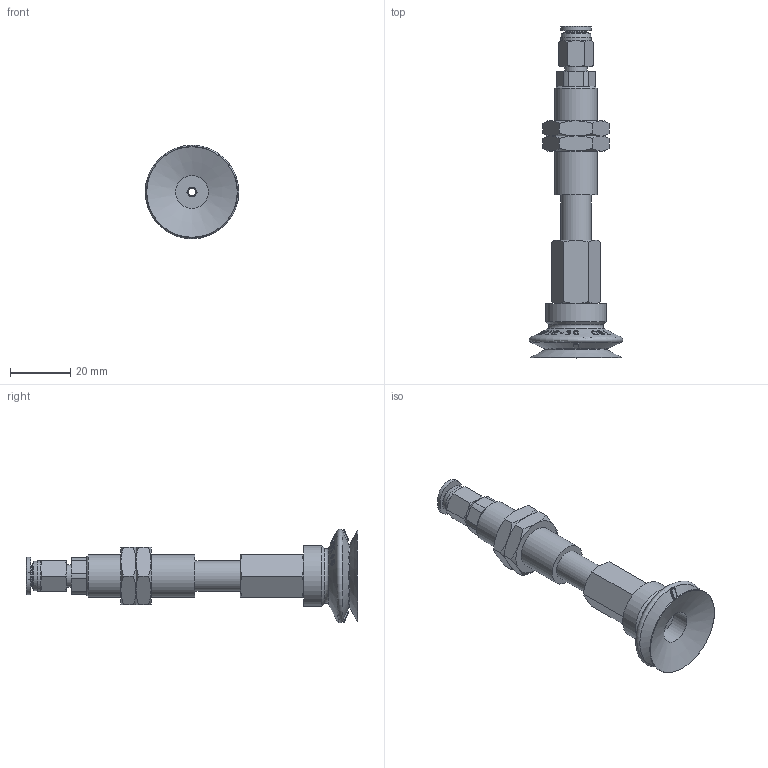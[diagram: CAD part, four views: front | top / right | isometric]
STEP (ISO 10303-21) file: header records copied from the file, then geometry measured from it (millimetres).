
FILE_DESCRIPTION(('STEP AP214'),'1');
FILE_NAME('-O.stp','2026-01-21T05:16:54',(' '),(' '),'Spatial InterOp 3D',' ',' ');
FILE_SCHEMA(('AUTOMOTIVE_DESIGN { 1 0 10303 214 1 1 1 1 }'));
Length unit declared in the file: millimetre
Products named in the file (8): BNABPJTS-30-15-※-O; PC-C_06-M5; ADAPTER; BPJG-30-※; Adapter-30-NAPJ; NUT-NAPJ-30-15-s; NAPJTS-30-15-FBODY; NAPJTS-30-15-MBODY
Assembly tree (8 placements, depth 2):
  BNABPJTS-30-15-※-O
    PC-C_06-M5
    ADAPTER
    BPJG-30-※
    Adapter-30-NAPJ
    NUT-NAPJ-30-15-s  x2
    NAPJTS-30-15-FBODY
    NAPJTS-30-15-MBODY
Bounding box: 30.99 x 109.98 x 30.99 mm (x, y, z)
Volume: 17993.5 mm3; surface area: 14005.2 mm2
Topology: 7 solids, 10 shells, 821 faces, 2244 edges, 1469 vertices
Faces by surface type: plane 684, cone 83, cylinder 38, torus 9, bspline 4, revolution 3
Full cylindrical faces by diameter (mm): 3 x3, 4 x2, 4.134 x1, 4.917 x1, 5 x1, 5.8 x1, 6 x1, 7 x1, 7.4 x1, 8.2 x1, 10 x3, 10.8 x1, 11 x1, 13.188 x2, 14 x1, 20 x1
Entity records: 32732 total; most frequent: CARTESIAN_POINT 8229, ORIENTED_EDGE 4286, DIRECTION 2772, EDGE_CURVE 2145, VERTEX_POINT 1434, B_SPLINE_CURVE_WITH_KNOTS 1093, AXIS2_PLACEMENT_3D 939, LINE 891
